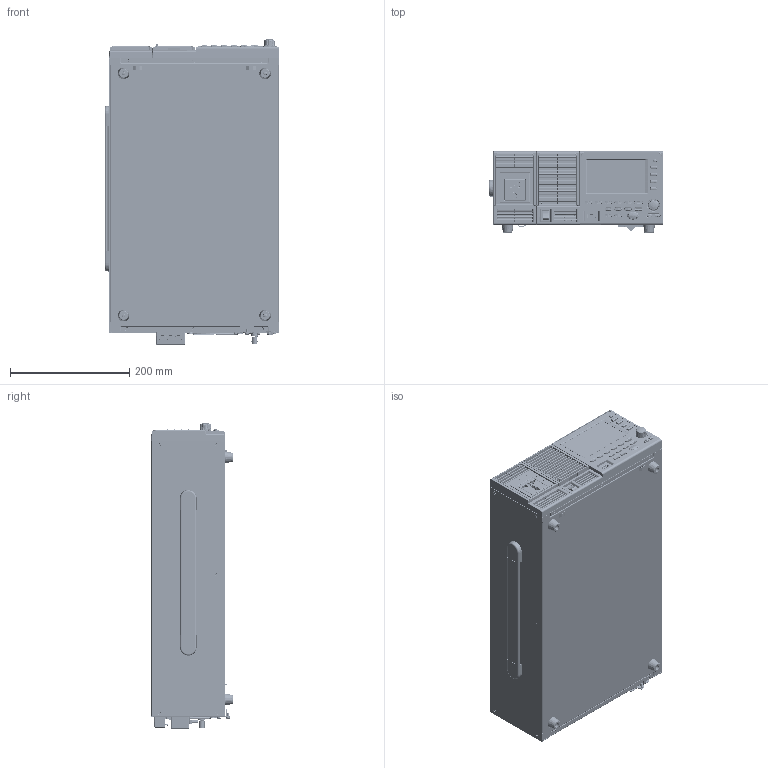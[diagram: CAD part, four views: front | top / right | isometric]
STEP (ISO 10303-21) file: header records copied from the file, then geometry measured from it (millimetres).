
FILE_DESCRIPTION((''),'2;1');
FILE_NAME('APS-4000_ASM','2020-07-02T17:31:36',('benny_chen'),(''),'CREO PARAMETRIC BY PTC INC, 2019080','CREO PARAMETRIC BY PTC INC, 2019080','');
FILE_SCHEMA(('CONFIG_CONTROL_DESIGN'));
Products named in the file (194): APS-4000_SKEL0001; ASR_SKEL0001; APS-4K_FRONT_ASM-B_SKEL; LCD-PH-07008-002; APS-4K-LCD-HOLD-B; 62SR-2K0HP101_ASM; 57RG-20B05601; 57RG-20B05501; APS-4K-LCD-B_ASM; APS-4K-PCB-KEY-1B; BL112_40RL; BL112_50S; CTT-1137; LED16X08S-SMD-SINGLECOLOR; APS-4K-ENCODE-SW-DC-12KV30D03F; APS-4K-PCB-KEY-1B_ASM; 63FP-AG1145A1; INSERT-CU; 63FP-AG1145A1_ASM; 63FP-AG114601; 63FP-AG114601_ASM; 57RB-40G14601_57RB-40G15101; APS-4K_MODEL_NP-B; PFR-100-SW-POWER; PMS-3X6; 51SR-21000201; 4702-06300301; 5005-180G020; APS-4K_F_ASM-B_ASM; 62FG-120PP10; APS-4K-HP-HOLDER-USB-B; 62SR-2K0HP401_ASM; APS-4K-USB-UB-01745-B; FRP10; PMS-3X8; APS-4K-HP-HOLDER-USB-ASM-B_ASM; PMS-W-3X6; APS-4K_FP_ASM-B_ASM; 57RG-20B06001; APS-4K-SPONGE-B_ASM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
Assembly tree (509 placements, depth 6):
  APS-4000_ASM
    APS-4000_SKEL0001
    ASR_SKEL0001
    APS-4K_FRONT_ASM-B_ASM
      APS-4K_FRONT_ASM-B_SKEL
      APS-4K_F_ASM-B_ASM
        APS-4K-LCD-B_ASM
          LCD-PH-07008-002
          62SR-2K0HP101_ASM
            APS-4K-LCD-HOLD-B
          57RG-20B05601  x2
          57RG-20B05501  x2
        APS-4K-PCB-KEY-1B_ASM
          APS-4K-PCB-KEY-1B
          BL112_40RL
          BL112_50S
          CTT-1137  x20
          LED16X08S-SMD-SINGLECOLOR  x4
          APS-4K-ENCODE-SW-DC-12KV30D03F
        63FP-AG1145A1_ASM
          63FP-AG1145A1
          INSERT-CU  x7
        63FP-AG114601_ASM
          63FP-AG114601
        57RB-40G14601_57RB-40G15101
        APS-4K_MODEL_NP-B
        PFR-100-SW-POWER
        PMS-3X6  x5
        51SR-21000201
        4702-06300301  x4
        5005-180G020
      APS-4K_FP_ASM-B_ASM
        62FG-120PP10  x2
        APS-4K-HP-HOLDER-USB-ASM-B_ASM
          62SR-2K0HP401_ASM
            APS-4K-HP-HOLDER-USB-B
          APS-4K-USB-UB-01745-B
          FRP10
          PMS-3X8  x2
        PMS-W-3X6  x2
      APS-4K-SPONGE-B_ASM
        57RG-20B06001
      PMS-W-3X6  x7
      594A-03012BS1  x3
      57IL-28F23801
      5320-00403021-SR-3AQ_ASM  x2
        SR-3AQ-Z
        SR-3AQ-A
    57IL-28F22701
    APS-4K-ECH350VM-04P-PCB_ASM
      APS-4K-ECH350VM-04P-PCB
      APS-7300-ECH350VM-04P
    62SR-2K0SP1A1_ASM
      APS-4K-HP-R-HOLD
      SO-M3-5  x4
      BSO-M3-10  x3
    APS-4K-PCB-PCB1_ASM
      APS-4K-PCB-PCB1
      5203-AW007401_ASM  x2
        5203-AW007401
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Bounding box: 293 x 136.54 x 512.8 mm (x, y, z)
Volume: 2224536.8 mm3; surface area: 3327986.1 mm2
Topology: 513 solids, 517 shells, 28746 faces, 73335 edges, 46886 vertices
Faces by surface type: plane 18655, cylinder 6695, cone 1804, bspline 665, sphere 513, torus 325, extrusion 89
Entity records: 521634 total; most frequent: CARTESIAN_POINT 129466, ORIENTED_EDGE 81076, DIRECTION 79740, EDGE_CURVE 40546, VECTOR 28608, LINE 28595, VERTEX_POINT 25781, AXIS2_PLACEMENT_3D 25566
